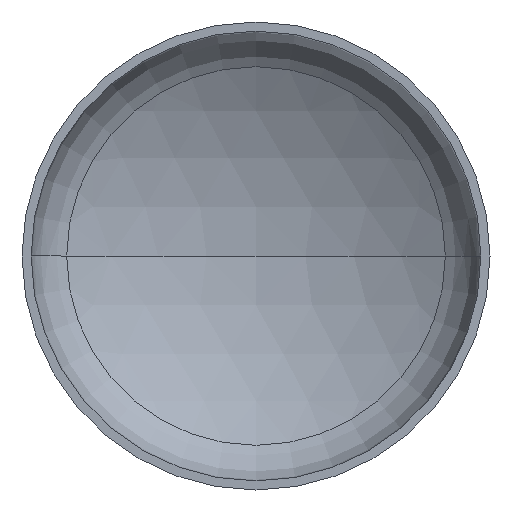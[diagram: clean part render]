
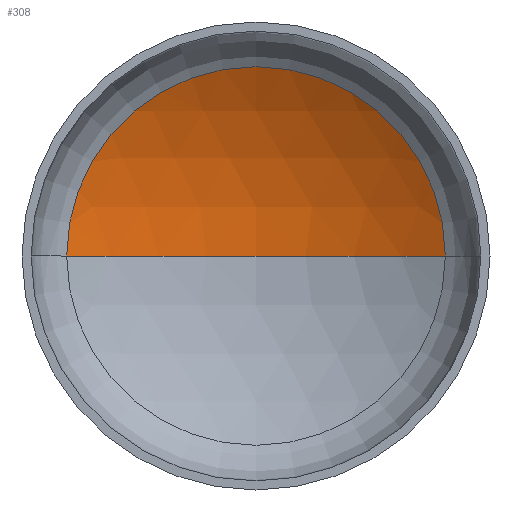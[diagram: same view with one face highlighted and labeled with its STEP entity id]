
A CAD part, front view. The second image highlights one B-rep face of the part: STEP entity #308.
In plain terms, the highlighted spherical face has radius 3200 mm.
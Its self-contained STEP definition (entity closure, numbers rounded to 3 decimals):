
#10 = AXIS2_PLACEMENT_3D ( 'NONE', #173, #232, #277 ) ;
#19 = CARTESIAN_POINT ( 'NONE',  ( 0., 650.599, 0. ) ) ;
#20 = AXIS2_PLACEMENT_3D ( 'NONE', #381, #184, #177 ) ;
#36 = EDGE_LOOP ( 'NONE', ( #141, #156, #121 ) ) ;
#39 = VERTEX_POINT ( 'NONE', #249 ) ;
#41 = AXIS2_PLACEMENT_3D ( 'NONE', #198, #213, #206 ) ;
#44 = AXIS2_PLACEMENT_3D ( 'NONE', #19, #66, #388 ) ;
#63 = CIRCLE ( 'NONE', #44, 1617.95 ) ;
#66 = DIRECTION ( 'NONE',  ( 0., -1., 0. ) ) ;
#119 = VERTEX_POINT ( 'NONE', #193 ) ;
#121 = ORIENTED_EDGE ( 'NONE', *, *, #160, .T. ) ;
#141 = ORIENTED_EDGE ( 'NONE', *, *, #353, .F. ) ;
#156 = ORIENTED_EDGE ( 'NONE', *, *, #171, .T. ) ;
#160 = EDGE_CURVE ( 'NONE', #119, #397, #63, .T. ) ;
#162 = SPHERICAL_SURFACE ( 'NONE', #20, 3200. ) ;
#171 = EDGE_CURVE ( 'NONE', #39, #119, #247, .T. ) ;
#173 = CARTESIAN_POINT ( 'NONE',  ( 0., -2110.241, 0. ) ) ;
#177 = DIRECTION ( 'NONE',  ( -1., 0., 0. ) ) ;
#184 = DIRECTION ( 'NONE',  ( 0., 0., -1. ) ) ;
#193 = CARTESIAN_POINT ( 'NONE',  ( 1617.95, 650.599, 0. ) ) ;
#198 = CARTESIAN_POINT ( 'NONE',  ( 0., -2110.241, 0. ) ) ;
#206 = DIRECTION ( 'NONE',  ( -1., 0., 0. ) ) ;
#213 = DIRECTION ( 'NONE',  ( 0., 0., -1. ) ) ;
#230 = FACE_OUTER_BOUND ( 'NONE', #36, .T. ) ;
#232 = DIRECTION ( 'NONE',  ( 0., 0., 1. ) ) ;
#247 = CIRCLE ( 'NONE', #41, 3200. ) ;
#249 = CARTESIAN_POINT ( 'NONE',  ( 0., 1089.759, 0. ) ) ;
#277 = DIRECTION ( 'NONE',  ( 1., 0., 0. ) ) ;
#308 = ADVANCED_FACE ( 'NONE', ( #230 ), #162, .F. ) ;
#353 = EDGE_CURVE ( 'NONE', #39, #397, #394, .T. ) ;
#381 = CARTESIAN_POINT ( 'NONE',  ( 0., -2110.241, 0. ) ) ;
#388 = DIRECTION ( 'NONE',  ( 1., 0., 0. ) ) ;
#393 = CARTESIAN_POINT ( 'NONE',  ( -1617.95, 650.599, 0. ) ) ;
#394 = CIRCLE ( 'NONE', #10, 3200. ) ;
#397 = VERTEX_POINT ( 'NONE', #393 ) ;
